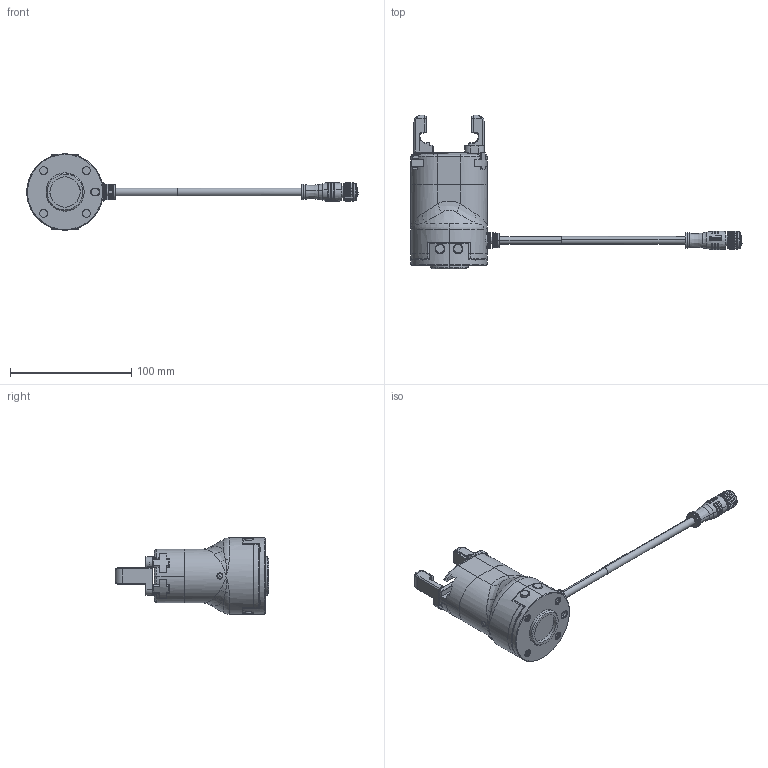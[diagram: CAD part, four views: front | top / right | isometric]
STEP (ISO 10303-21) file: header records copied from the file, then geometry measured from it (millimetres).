
FILE_DESCRIPTION (( 'STEP AP203' ), '1' );
FILE_NAME ('PGC-50-35-O-S_潠眢耀倰_V3.0_20250926.STEP', '2025-09-26T11:23:00', ( '' ), ( '' ), 'SwSTEP 2.0', 'SolidWorks 2020', '' );
FILE_SCHEMA (( 'CONFIG_CONTROL_DESIGN' ));
Products named in the file (3): PGC-50-35-O-S_潠眢耀倰_V3.0_20250926; 硌潑; 價极
Assembly tree (3 placements, depth 2):
  PGC-50-35-O-S_潠眢耀倰_V3.0_20250926
    價极
    硌潑  x2
Bounding box: 274.25 x 127 x 63 mm (x, y, z)
Volume: 17550.8 mm3; surface area: 66009.2 mm2
Topology: 12 solids, 35 shells, 1503 faces, 3669 edges, 2282 vertices
Faces by surface type: plane 547, cylinder 384, bspline 283, cone 246, torus 41, sphere 2
Full cylindrical faces by diameter (mm): 11.1 x3
Entity records: 65901 total; most frequent: CARTESIAN_POINT 41681, ORIENTED_EDGE 6334, EDGE_CURVE 3178, DIRECTION 2664, B_SPLINE_CURVE_WITH_KNOTS 2482, VERTEX_POINT 2006, EDGE_LOOP 1425, FACE_OUTER_BOUND 1307
